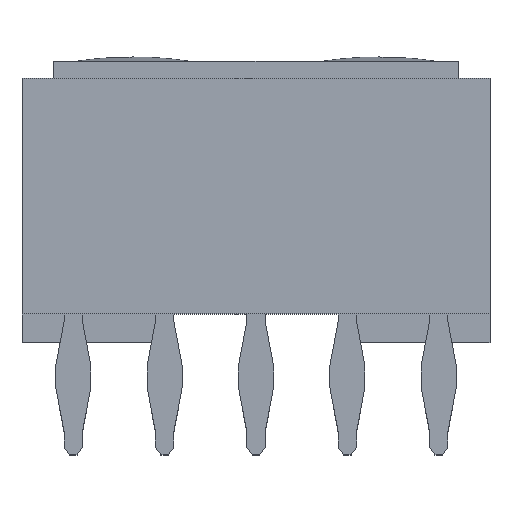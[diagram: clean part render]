
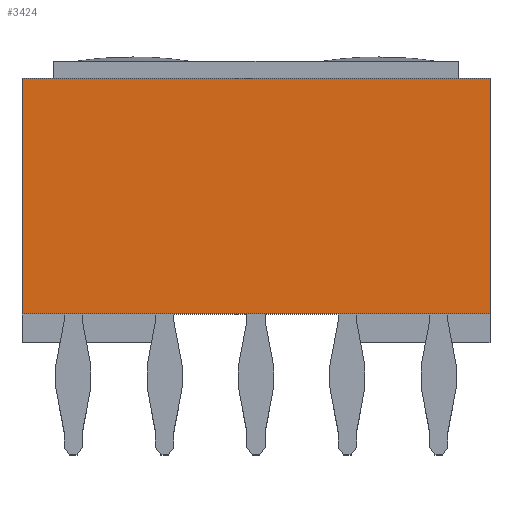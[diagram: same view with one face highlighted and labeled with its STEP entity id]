
A CAD part, top view. The second image highlights one B-rep face of the part: STEP entity #3424.
In plain terms, the highlighted planar face has unit normal (0, 0, 1).
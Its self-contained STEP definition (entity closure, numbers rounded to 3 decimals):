
#133=DIRECTION('',(1.,0.,0.));
#134=VECTOR('',#133,16.29);
#135=CARTESIAN_POINT('',(-8.145,-3.6,4.6));
#136=LINE('',#135,#134);
#385=DIRECTION('',(0.,-1.,0.));
#386=VECTOR('',#385,8.2);
#387=CARTESIAN_POINT('',(-8.145,4.6,4.6));
#388=LINE('',#387,#386);
#389=DIRECTION('',(-1.,0.,0.));
#390=VECTOR('',#389,16.29);
#391=CARTESIAN_POINT('',(8.145,4.6,4.6));
#392=LINE('',#391,#390);
#393=DIRECTION('',(0.,1.,0.));
#394=VECTOR('',#393,8.2);
#395=CARTESIAN_POINT('',(8.145,-3.6,4.6));
#396=LINE('',#395,#394);
#2249=CARTESIAN_POINT('',(8.145,4.6,4.6));
#2250=CARTESIAN_POINT('',(-8.145,4.6,4.6));
#2251=VERTEX_POINT('',#2249);
#2252=VERTEX_POINT('',#2250);
#2257=CARTESIAN_POINT('',(-8.145,-3.6,4.6));
#2258=VERTEX_POINT('',#2257);
#2267=CARTESIAN_POINT('',(8.145,-3.6,4.6));
#2268=VERTEX_POINT('',#2267);
#3412=CARTESIAN_POINT('',(0.,0.,4.6));
#3413=DIRECTION('',(0.,0.,1.));
#3414=DIRECTION('',(1.,0.,0.));
#3415=AXIS2_PLACEMENT_3D('',#3412,#3413,#3414);
#3416=PLANE('',#3415);
#3417=ORIENTED_EDGE('',*,*,#3180,.F.);
#3418=ORIENTED_EDGE('',*,*,#3017,.F.);
#3420=ORIENTED_EDGE('',*,*,#3419,.F.);
#3421=ORIENTED_EDGE('',*,*,#3399,.F.);
#3422=EDGE_LOOP('',(#3417,#3418,#3420,#3421));
#3423=FACE_OUTER_BOUND('',#3422,.F.);
#3424=ADVANCED_FACE('',(#3423),#3416,.T.);
#3017=EDGE_CURVE('',#2252,#2258,#388,.T.);
#3180=EDGE_CURVE('',#2258,#2268,#136,.T.);
#3399=EDGE_CURVE('',#2268,#2251,#396,.T.);
#3419=EDGE_CURVE('',#2251,#2252,#392,.T.);
